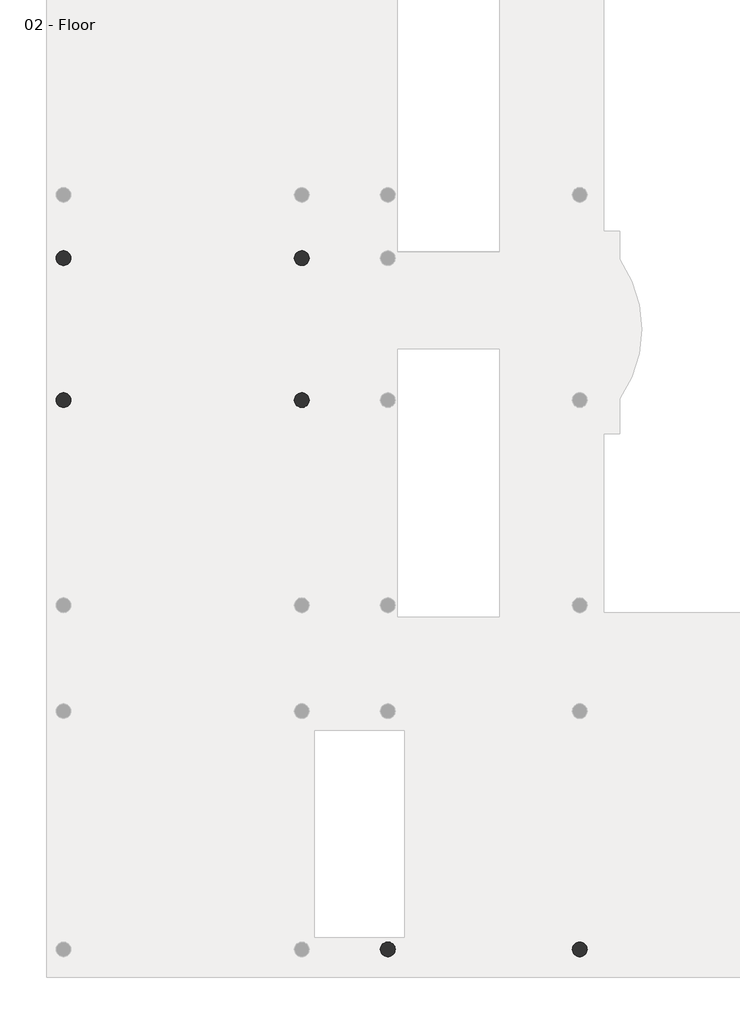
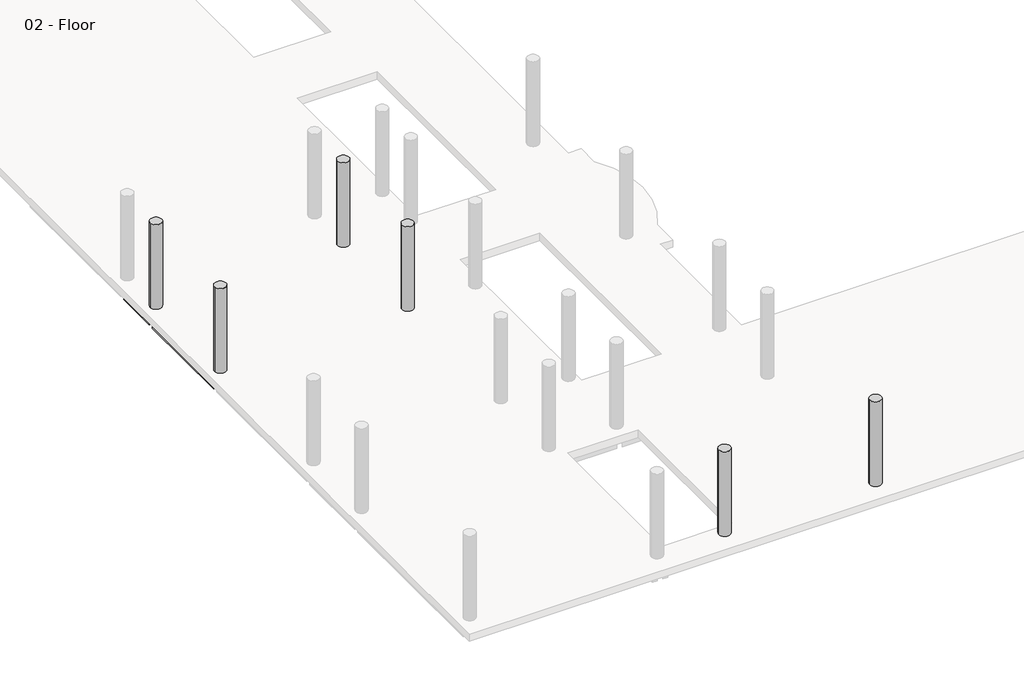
# One storey, part 2 of 9: 14 beams, 6 columns.
"""IFC4 building model written with IfcOpenShell, lengths in millimetres."""

from ifc_helpers import new_model, si_unit, point, frame, frame_2d, origin, place, context, project, spatial, polyline, circle_curve, trimmed, segment, composite_curve, outline, extrude, element, save
from ifc_brep_helpers import plane_surface, cylinder_surface, revolved_surface, advanced_brep

model = new_model("IFC4")

# Units and contexts
model_context = context("Model", 3, world=origin())
ifc_project = project(units=[si_unit("LENGTHUNIT", "METRE", prefix="MILLI")], contexts=[model_context])

# Site, building, storey
site = spatial("IfcSite", under=ifc_project)
building = spatial("IfcBuilding", under=site)
storey = spatial("IfcBuildingStorey", under=building, Name="02 - Floor", Elevation=3800.0)

# Beams
placement = place(None, origin())
element("IfcBeam", 1, ObjectType="M_Concrete-Rectangular Beam : 400 x 800mm", at=placement, inside=storey, context=model_context, shape_type="AdvancedBrep", body=[
    advanced_brep(
    [(-9401.9994416, 426.6609793, 3000.0), (-9401.9994416, -1310.2837394, 3000.0), (-9401.9994416, -1310.2837394, 3500.0), (-9401.9994416, 426.6609793, 3500.0), (-9098.921801, 329.7386199, 3000.0), (-9001.9994416, 329.7386199, 3000.0), (-9001.9994416, -1213.3613801, 3000.0), (-9001.9994416, -1310.2837394, 3000.0), (-9001.9994416, 329.7386199, 3500.0), (-9001.9994416, -1213.3613801, 3500.0), (-9001.9994416, -1310.2837394, 3500.0), (-9098.921801, 329.7386199, 3500.0)],
    [
        (0, 1),
        (1, 2),
        (2, 3),
        (3, 0),
        (0, 4, circle_curve(frame((-9201.9994416, 529.7386199, 3000.0), z_axis=(0.0, 0.0, 1.0), x_axis=(-1.0, 0.0, 0.0)), 225.0)),
        (4, 5),
        (5, 6),
        (6, 7),
        (7, 1, circle_curve(frame((-9201.9994416, -1413.3613801, 3000.0), z_axis=(0.0, 0.0, 1.0), x_axis=(-1.0, 0.0, 0.0)), 225.0)),
        (5, 8),
        (8, 9),
        (9, 10),
        (10, 7),
        (3, 11, circle_curve(frame((-9201.9994416, 529.7386199, 3500.0), z_axis=(0.0, 0.0, 1.0), x_axis=(-1.0, 0.0, 0.0)), 225.0)),
        (11, 4),
        (11, 8),
        (10, 2, circle_curve(frame((-9201.9994416, -1413.3613801, 3500.0), z_axis=(0.0, 0.0, 1.0), x_axis=(-1.0, 0.0, 0.0)), 225.0)),
    ],
    [
        plane_surface(frame((-9401.9994416, -1175.6613801, 3400.0), z_axis=(-1.0, 0.0, 0.0), x_axis=(0.0, 0.0, -1.0))),
        plane_surface(frame((-9201.9994416, -1175.6613801, 3000.0), z_axis=(0.0, 0.0, -1.0), x_axis=(1.0, 0.0, 0.0))),
        plane_surface(frame((-9001.9994416, -1175.6613801, 3400.0), z_axis=(1.0, 0.0, 0.0), x_axis=(0.0, 0.0, 1.0))),
        revolved_surface(polyline([(-9426.9994416, 529.7386199, 3500.0), (-9426.9994416, 529.7386199, 3000.0)]), (-9201.9994416, 529.7386199, 0.0), (0.0, 0.0, 1.0)),
        plane_surface(frame((-8964.2994416, 329.7386199, 3000.0), z_axis=(0.0, 1.0, 0.0), x_axis=(1.0, 0.0, 0.0))),
        revolved_surface(polyline([(-9426.9994416, -1413.3613801, 3500.0), (-9426.9994416, -1413.3613801, 3000.0)]), (-9201.9994416, -1413.3613801, 0.0), (0.0, 0.0, 1.0)),
        plane_surface(frame((24268.8999097, 30514.0407562, 3500.0), z_axis=(0.0, 0.0, 1.0), x_axis=(0.0, -1.0, 0.0))),
    ],
    [
        (0, [[1, 2, 3, 4]]),
        (1, [[5, 6, 7, 8, 9, -1]]),
        (2, [[-8, -7, 10, 11, 12, 13]]),
        (3, [[-5, -4, 14, 15]]),
        (4, [[-6, -15, 16, -10]]),
        (5, [[-9, -13, 17, -2]]),
        (6, [[-3, -17, -12, -11, -16, -14]]),
    ],
),
])
element("IfcBeam", 2, ObjectType="M_Concrete-Rectangular Beam : 400 x 800mm", at=placement, inside=storey, context=model_context, shape_type="AdvancedBrep", body=[
    advanced_brep(
    [(-9401.9994416, -1516.4390207, 3000.0), (-9401.9994416, -5666.3837394, 3000.0), (-9401.9994416, -5666.3837394, 3500.0), (-9401.9994416, -1516.4390207, 3500.0), (-9001.9994416, -5666.3837394, 3000.0), (-9098.921801, -1613.3613801, 3000.0), (-9001.9994416, -1613.3613801, 3000.0), (-9001.9994416, -5569.4613801, 3000.0), (-9001.9994416, -1613.3613801, 3500.0), (-9001.9994416, -5569.4613801, 3500.0), (-9001.9994416, -5666.3837394, 3500.0), (-9098.921801, -1613.3613801, 3500.0)],
    [
        (0, 1),
        (1, 2),
        (2, 3),
        (3, 0),
        (4, 1, circle_curve(frame((-9201.9994416, -5769.4613801, 3000.0), z_axis=(0.0, 0.0, 1.0), x_axis=(-1.0, 0.0, 0.0)), 225.0)),
        (0, 5, circle_curve(frame((-9201.9994416, -1413.3613801, 3000.0), z_axis=(0.0, 0.0, 1.0), x_axis=(-1.0, 0.0, 0.0)), 225.0)),
        (5, 6),
        (6, 7),
        (7, 4),
        (6, 8),
        (8, 9),
        (9, 10),
        (10, 4),
        (10, 2, circle_curve(frame((-9201.9994416, -5769.4613801, 3500.0), z_axis=(0.0, 0.0, 1.0), x_axis=(-1.0, 0.0, 0.0)), 225.0)),
        (5, 11),
        (11, 8),
        (3, 11, circle_curve(frame((-9201.9994416, -1413.3613801, 3500.0), z_axis=(0.0, 0.0, 1.0), x_axis=(-1.0, 0.0, 0.0)), 225.0)),
    ],
    [
        plane_surface(frame((-9401.9994416, -5531.7613801, 3400.0), z_axis=(-1.0, 0.0, 0.0), x_axis=(0.0, 0.0, -1.0))),
        plane_surface(frame((-9201.9994416, -5531.7613801, 3000.0), z_axis=(0.0, 0.0, -1.0), x_axis=(1.0, 0.0, 0.0))),
        plane_surface(frame((-9001.9994416, -5531.7613801, 3400.0), z_axis=(1.0, 0.0, 0.0), x_axis=(0.0, 0.0, 1.0))),
        revolved_surface(polyline([(-9426.9994416, -5769.4613801, 3500.0), (-9426.9994416, -5769.4613801, 3000.0)]), (-9201.9994416, -5769.4613801, 0.0), (0.0, 0.0, 1.0)),
        plane_surface(frame((-8964.2994416, -1613.3613801, 3000.0), z_axis=(0.0, 1.0, 0.0), x_axis=(1.0, 0.0, 0.0))),
        revolved_surface(polyline([(-9426.9994416, -1413.3613801, 3500.0), (-9426.9994416, -1413.3613801, 3000.0)]), (-9201.9994416, -1413.3613801, 0.0), (0.0, 0.0, 1.0)),
        plane_surface(frame((24268.8999097, 30514.0407562, 3500.0), z_axis=(0.0, 0.0, 1.0), x_axis=(0.0, -1.0, 0.0))),
    ],
    [
        (0, [[1, 2, 3, 4]]),
        (1, [[5, -1, 6, 7, 8, 9]]),
        (2, [[-9, -8, 10, 11, 12, 13]]),
        (3, [[-5, -13, 14, -2]]),
        (4, [[-7, 15, 16, -10]]),
        (5, [[-6, -4, 17, -15]]),
        (6, [[-3, -14, -12, -11, -16, -17]]),
    ],
),
])
element("IfcBeam", 3, ObjectType="M_Concrete-Rectangular Beam : 400 x 800mm", at=placement, inside=storey, context=model_context, shape_type="AdvancedBrep", body=[
    advanced_brep(
    [(554.8005584, -5569.4613801, 3000.0), (-1586.7994416, -5569.4613801, 3000.0), (-1586.7994416, -5569.4613801, 3500.0), (554.8005584, -5569.4613801, 3500.0), (554.8005584, -5666.3837394, 3000.0), (529.8005584, -5769.4613801, 3000.0), (651.7229178, -5969.4613801, 3000.0), (554.8005584, -5969.4613801, 3000.0), (-1586.7994416, -5969.4613801, 3000.0), (651.7229178, -5969.4613801, 3500.0), (554.8005584, -5969.4613801, 3500.0), (-1586.7994416, -5969.4613801, 3500.0), (554.8005584, -5666.3837394, 3500.0), (529.8005584, -5769.4613801, 3500.0)],
    [
        (0, 1),
        (1, 2),
        (2, 3),
        (3, 0),
        (0, 4),
        (4, 5, circle_curve(frame((754.8005584, -5769.4613801, 3000.0), z_axis=(0.0, 0.0, 1.0), x_axis=(-1.0, 0.0, 0.0)), 225.0)),
        (5, 6, circle_curve(frame((754.8005584, -5769.4613801, 3000.0), z_axis=(0.0, 0.0, 1.0), x_axis=(-1.0, 0.0, 0.0)), 225.0)),
        (6, 7),
        (7, 8),
        (8, 1),
        (6, 9),
        (9, 10),
        (10, 11),
        (11, 8),
        (3, 12),
        (12, 4),
        (5, 13),
        (13, 9, circle_curve(frame((754.8005584, -5769.4613801, 3500.0), z_axis=(0.0, 0.0, 1.0), x_axis=(-1.0, 0.0, 0.0)), 225.0)),
        (12, 13, circle_curve(frame((754.8005584, -5769.4613801, 3500.0), z_axis=(0.0, 0.0, 1.0), x_axis=(-1.0, 0.0, 0.0)), 225.0)),
        (11, 2),
    ],
    [
        plane_surface(frame((-1649.0994416, -5569.4613801, 3400.0), z_axis=(0.0, 1.0, 0.0), x_axis=(0.0, 0.0, -1.0))),
        plane_surface(frame((-1649.0994416, -5769.4613801, 3000.0), z_axis=(0.0, 0.0, -1.0), x_axis=(0.0, -1.0, 0.0))),
        plane_surface(frame((-1649.0994416, -5969.4613801, 3400.0), z_axis=(0.0, -1.0, 0.0), x_axis=(0.0, 0.0, 1.0))),
        plane_surface(frame((554.8005584, -5531.7613801, 3400.0), z_axis=(1.0, 0.0, 0.0), x_axis=(0.0, 0.0, -1.0))),
        revolved_surface(polyline([(529.8005584, -5769.4613801, 3500.0), (529.8005584, -5769.4613801, 3000.0)]), (754.8005584, -5769.4613801, 0.0), (0.0, 0.0, 1.0)),
        plane_surface(frame((-1586.7994416, -5531.7613801, 3350.0), z_axis=(-1.0, 0.0, 0.0), x_axis=(0.0, 0.0, 1.0))),
        plane_surface(frame((24268.8999097, 30514.0407562, 3500.0), z_axis=(0.0, 0.0, 1.0), x_axis=(0.0, -1.0, 0.0))),
    ],
    [
        (0, [[1, 2, 3, 4]]),
        (1, [[5, 6, 7, 8, 9, 10, -1]]),
        (2, [[-9, -8, 11, 12, 13, 14]]),
        (3, [[-5, -4, 15, 16]]),
        (4, [[-7, 17, 18, -11]]),
        (4, [[-6, -16, 19, -17]]),
        (5, [[-10, -14, 20, -2]]),
        (6, [[-3, -20, -13, -12, -18, -19, -15]]),
    ],
),
])
element("IfcBeam", 4, ObjectType="M_Concrete-Rectangular Beam : 400 x 800mm", at=placement, inside=storey, context=model_context, shape_type="AdvancedBrep", body=[
    advanced_brep(
    [(-2186.7994416, -5569.4613801, 3000.0), (-9001.9994416, -5569.4613801, 3000.0), (-9001.9994416, -5569.4613801, 3500.0), (-2186.7994416, -5569.4613801, 3500.0), (-9001.9994416, -5666.3837394, 3000.0), (-2186.7994416, -5969.4613801, 3000.0), (-3515.5994416, -5969.4613801, 3000.0), (-3915.5994416, -5969.4613801, 3000.0), (-5344.3994416, -5969.4613801, 3000.0), (-5744.3994416, -5969.4613801, 3000.0), (-7173.1994416, -5969.4613801, 3000.0), (-7573.1994416, -5969.4613801, 3000.0), (-9001.9994416, -5969.4613801, 3000.0), (-9098.921801, -5969.4613801, 3000.0), (-8976.9994416, -5769.4613801, 3000.0), (-2186.7994416, -5969.4613801, 3500.0), (-3515.5994416, -5969.4613801, 3500.0), (-3915.5994416, -5969.4613801, 3500.0), (-5344.3994416, -5969.4613801, 3500.0), (-5744.3994416, -5969.4613801, 3500.0), (-7173.1994416, -5969.4613801, 3500.0), (-7573.1994416, -5969.4613801, 3500.0), (-9001.9994416, -5969.4613801, 3500.0), (-9098.921801, -5969.4613801, 3500.0), (-9001.9994416, -5666.3837394, 3500.0), (-8976.9994416, -5769.4613801, 3500.0)],
    [
        (0, 1),
        (1, 2),
        (2, 3),
        (3, 0),
        (4, 1),
        (0, 5),
        (5, 6),
        (6, 7),
        (7, 8),
        (8, 9),
        (9, 10),
        (10, 11),
        (11, 12),
        (12, 13),
        (13, 14, circle_curve(frame((-9201.9994416, -5769.4613801, 3000.0), z_axis=(0.0, 0.0, 1.0), x_axis=(-1.0, 0.0, 0.0)), 225.0)),
        (14, 4, circle_curve(frame((-9201.9994416, -5769.4613801, 3000.0), z_axis=(0.0, 0.0, 1.0), x_axis=(-1.0, 0.0, 0.0)), 225.0)),
        (5, 15),
        (15, 16),
        (16, 17),
        (17, 18),
        (18, 19),
        (19, 20),
        (20, 21),
        (21, 22),
        (22, 23),
        (23, 13),
        (4, 24),
        (24, 2),
        (23, 25, circle_curve(frame((-9201.9994416, -5769.4613801, 3500.0), z_axis=(0.0, 0.0, 1.0), x_axis=(-1.0, 0.0, 0.0)), 225.0)),
        (25, 14),
        (25, 24, circle_curve(frame((-9201.9994416, -5769.4613801, 3500.0), z_axis=(0.0, 0.0, 1.0), x_axis=(-1.0, 0.0, 0.0)), 225.0)),
        (3, 15),
    ],
    [
        plane_surface(frame((-8964.2994416, -5569.4613801, 3800.0), z_axis=(0.0, 1.0, 0.0), x_axis=(1.0, 0.0, 0.0))),
        plane_surface(frame((-8964.2994416, -5569.4613801, 3000.0), z_axis=(0.0, 0.0, -1.0), x_axis=(1.0, 0.0, 0.0))),
        plane_surface(frame((-8964.2994416, -5969.4613801, 3000.0), z_axis=(0.0, -1.0, 0.0), x_axis=(1.0, 0.0, 0.0))),
        plane_surface(frame((-9001.9994416, -5531.7613801, 3400.0), z_axis=(-1.0, 0.0, 0.0), x_axis=(0.0, 0.0, 1.0))),
        revolved_surface(polyline([(-9426.9994416, -5769.4613801, 3500.0), (-9426.9994416, -5769.4613801, 3000.0)]), (-9201.9994416, -5769.4613801, 0.0), (0.0, 0.0, 1.0)),
        plane_surface(frame((-2186.7994416, -5545.5322965, 2900.0), z_axis=(1.0, 0.0, 0.0), x_axis=(0.0, -1.0, 0.0))),
        plane_surface(frame((24268.8999097, 30514.0407562, 3500.0), z_axis=(0.0, 0.0, 1.0), x_axis=(0.0, -1.0, 0.0))),
    ],
    [
        (0, [[1, 2, 3, 4]]),
        (1, [[5, -1, 6, 7, 8, 9, 10, 11, 12, 13, 14, 15, 16]]),
        (2, [[-14, -13, -12, -11, -10, -9, -8, -7, 17, 18, 19, 20, 21, 22, 23, 24, 25, 26]]),
        (3, [[-5, 27, 28, -2]]),
        (4, [[-15, -26, 29, 30]]),
        (4, [[-16, -30, 31, -27]]),
        (5, [[-6, -4, 32, -17]]),
        (6, [[-3, -28, -31, -29, -25, -24, -23, -22, -21, -20, -19, -18, -32]]),
    ],
),
])
element("IfcBeam", 5, ObjectType="M_Concrete-Rectangular Beam : 400 x 800mm", at=placement, inside=storey, context=model_context, shape_type="AdvancedBrep", body=[
    advanced_brep(
    [(554.8005584, -11868.6613801, 3000.0), (-1586.7994416, -11868.6613801, 3000.0), (-1586.7994416, -11868.6613801, 3500.0), (554.8005584, -11868.6613801, 3500.0), (554.8005584, -11965.5837394, 3000.0), (529.8005584, -12068.6613801, 3000.0), (651.7229178, -12268.6613801, 3000.0), (554.8005584, -12268.6613801, 3000.0), (-1586.7994416, -12268.6613801, 3000.0), (651.7229178, -12268.6613801, 3500.0), (554.8005584, -12268.6613801, 3500.0), (-1586.7994416, -12268.6613801, 3500.0), (554.8005584, -11965.5837394, 3500.0), (529.8005584, -12068.6613801, 3500.0)],
    [
        (0, 1),
        (1, 2),
        (2, 3),
        (3, 0),
        (0, 4),
        (4, 5, circle_curve(frame((754.8005584, -12068.6613801, 3000.0), z_axis=(0.0, 0.0, 1.0), x_axis=(-1.0, 0.0, 0.0)), 225.0)),
        (5, 6, circle_curve(frame((754.8005584, -12068.6613801, 3000.0), z_axis=(0.0, 0.0, 1.0), x_axis=(-1.0, 0.0, 0.0)), 225.0)),
        (6, 7),
        (7, 8),
        (8, 1),
        (6, 9),
        (9, 10),
        (10, 11),
        (11, 8),
        (3, 12),
        (12, 4),
        (5, 13),
        (13, 9, circle_curve(frame((754.8005584, -12068.6613801, 3500.0), z_axis=(0.0, 0.0, 1.0), x_axis=(-1.0, 0.0, 0.0)), 225.0)),
        (12, 13, circle_curve(frame((754.8005584, -12068.6613801, 3500.0), z_axis=(0.0, 0.0, 1.0), x_axis=(-1.0, 0.0, 0.0)), 225.0)),
        (11, 2),
    ],
    [
        plane_surface(frame((-1649.0994416, -11868.6613801, 3400.0), z_axis=(0.0, 1.0, 0.0), x_axis=(0.0, 0.0, -1.0))),
        plane_surface(frame((-1649.0994416, -12068.6613801, 3000.0), z_axis=(0.0, 0.0, -1.0), x_axis=(0.0, -1.0, 0.0))),
        plane_surface(frame((-1649.0994416, -12268.6613801, 3400.0), z_axis=(0.0, -1.0, 0.0), x_axis=(0.0, 0.0, 1.0))),
        plane_surface(frame((554.8005584, -11830.9613801, 3400.0), z_axis=(1.0, 0.0, 0.0), x_axis=(0.0, 0.0, -1.0))),
        revolved_surface(polyline([(529.8005584, -12068.6613801, 3500.0), (529.8005584, -12068.6613801, 3000.0)]), (754.8005584, -12068.6613801, 0.0), (0.0, 0.0, 1.0)),
        plane_surface(frame((-1586.7994416, -11830.9613801, 3350.0), z_axis=(-1.0, 0.0, 0.0), x_axis=(0.0, 0.0, 1.0))),
        plane_surface(frame((24268.8999097, 30514.0407562, 3500.0), z_axis=(0.0, 0.0, 1.0), x_axis=(0.0, -1.0, 0.0))),
    ],
    [
        (0, [[1, 2, 3, 4]]),
        (1, [[5, 6, 7, 8, 9, 10, -1]]),
        (2, [[-9, -8, 11, 12, 13, 14]]),
        (3, [[-5, -4, 15, 16]]),
        (4, [[-7, 17, 18, -11]]),
        (4, [[-6, -16, 19, -17]]),
        (5, [[-10, -14, 20, -2]]),
        (6, [[-3, -20, -13, -12, -18, -19, -15]]),
    ],
),
])
element("IfcBeam", 6, ObjectType="M_Concrete-Rectangular Beam : 400 x 800mm", at=placement, inside=storey, context=model_context, shape_type="SweptSolid", body=[
    extrude(outline(composite_curve([segment(polyline([(6447.6005584, -22435.0613801), (6447.6005584, -22531.9837394)]), True, "CONTINUOUS"), segment(trimmed(circle_curve(frame_2d((6647.6005584, -22635.0613801)), 225.0), [point((6447.6005584, -22531.9837394))], [point((6422.6005584, -22635.0613801))], True, "CARTESIAN"), True, "CONTINUOUS"), segment(trimmed(circle_curve(frame_2d((6647.6005584, -22635.0613801)), 225.0), [point((6422.6005584, -22635.0613801))], [point((6544.5229178, -22835.0613801))], True, "CARTESIAN"), True, "CONTINUOUS"), segment(polyline([(6544.5229178, -22835.0613801), (857.878199, -22835.0613801)]), True, "CONTINUOUS"), segment(trimmed(circle_curve(frame_2d((754.8005584, -22635.0613801)), 225.0), [point((857.878199, -22835.0613801))], [point((979.8005584, -22635.0613801))], True, "CARTESIAN"), True, "CONTINUOUS"), segment(trimmed(circle_curve(frame_2d((754.8005584, -22635.0613801)), 225.0), [point((979.8005584, -22635.0613801))], [point((857.878199, -22435.0613801))], True, "CARTESIAN"), True, "CONTINUOUS"), segment(polyline([(857.878199, -22435.0613801), (6447.6005584, -22435.0613801)]), True, "CONTINUOUS")], self_intersect=False)), frame((0.0, 0.0, 3000.0), z_axis=(0.0, 0.0, 1.0), x_axis=(1.0, 0.0, 0.0)), (0.0, 0.0, 1.0), 500.0),
    extrude(outline(composite_curve([segment(polyline([(-1586.7994416, -22835.0613801), (-1586.7994416, -22435.0613801), (651.7229178, -22435.0613801)]), True, "CONTINUOUS"), segment(trimmed(circle_curve(frame_2d((754.8005584, -22635.0613801)), 225.0), [point((651.7229178, -22435.0613801))], [point((529.8005584, -22635.0613801))], True, "CARTESIAN"), True, "CONTINUOUS"), segment(trimmed(circle_curve(frame_2d((754.8005584, -22635.0613801)), 225.0), [point((529.8005584, -22635.0613801))], [point((651.7229178, -22835.0613801))], True, "CARTESIAN"), True, "CONTINUOUS"), segment(polyline([(651.7229178, -22835.0613801), (-1586.7994416, -22835.0613801)]), True, "CONTINUOUS")], self_intersect=False)), frame((0.0, 0.0, 3000.0), z_axis=(0.0, 0.0, 1.0), x_axis=(1.0, 0.0, 0.0)), (0.0, 0.0, 1.0), 500.0),
])
element("IfcBeam", 7, ObjectType="M_Concrete-Rectangular Beam : 400 x 800mm", at=placement, inside=storey, context=model_context, shape_type="SweptSolid", body=[
    extrude(outline(composite_curve([segment(trimmed(circle_curve(frame_2d((754.8005584, -1413.3613801)), 225.0), [point((529.8005584, -1413.3613801))], [point((554.8005584, -1516.4390207))], True, "CARTESIAN"), True, "CONTINUOUS"), segment(polyline([(554.8005584, -1516.4390207), (554.8005584, -1613.3613801), (-1586.7994416, -1613.3613801), (-1586.7994416, -1213.3613801), (554.8005584, -1213.3613801), (554.8005584, -1310.2837394)]), True, "CONTINUOUS"), segment(trimmed(circle_curve(frame_2d((754.8005584, -1413.3613801)), 225.0), [point((554.8005584, -1310.2837394))], [point((529.8005584, -1413.3613801))], True, "CARTESIAN"), True, "CONTINUOUS")], self_intersect=False)), frame((0.0, 0.0, 3000.0), z_axis=(0.0, 0.0, 1.0), x_axis=(1.0, 0.0, 0.0)), (0.0, 0.0, 1.0), 500.0),
])
element("IfcBeam", 8, ObjectType="M_Concrete-Rectangular Beam : 400 x 800mm", at=placement, inside=storey, context=model_context, shape_type="AdvancedBrep", body=[
    advanced_brep(
    [(-2186.7994416, -1213.3613801, 3000.0), (-9001.9994416, -1213.3613801, 3000.0), (-9001.9994416, -1213.3613801, 3500.0), (-2186.7994416, -1213.3613801, 3500.0), (-9098.921801, -1613.3613801, 3000.0), (-8976.9994416, -1413.3613801, 3000.0), (-9001.9994416, -1310.2837394, 3000.0), (-2186.7994416, -1613.3613801, 3000.0), (-9001.9994416, -1613.3613801, 3000.0), (-2186.7994416, -1613.3613801, 3500.0), (-9001.9994416, -1613.3613801, 3500.0), (-9098.921801, -1613.3613801, 3500.0), (-8976.9994416, -1413.3613801, 3500.0), (-9001.9994416, -1310.2837394, 3500.0)],
    [
        (0, 1),
        (1, 2),
        (2, 3),
        (3, 0),
        (4, 5, circle_curve(frame((-9201.9994416, -1413.3613801, 3000.0), z_axis=(0.0, 0.0, 1.0), x_axis=(-1.0, 0.0, 0.0)), 225.0)),
        (5, 6, circle_curve(frame((-9201.9994416, -1413.3613801, 3000.0), z_axis=(0.0, 0.0, 1.0), x_axis=(-1.0, 0.0, 0.0)), 225.0)),
        (6, 1),
        (0, 7),
        (7, 8),
        (8, 4),
        (7, 9),
        (9, 10),
        (10, 11),
        (11, 4),
        (11, 12, circle_curve(frame((-9201.9994416, -1413.3613801, 3500.0), z_axis=(0.0, 0.0, 1.0), x_axis=(-1.0, 0.0, 0.0)), 225.0)),
        (12, 5),
        (12, 13, circle_curve(frame((-9201.9994416, -1413.3613801, 3500.0), z_axis=(0.0, 0.0, 1.0), x_axis=(-1.0, 0.0, 0.0)), 225.0)),
        (13, 6),
        (13, 2),
        (3, 9),
    ],
    [
        plane_surface(frame((-8964.2994416, -1213.3613801, 3800.0), z_axis=(0.0, 1.0, 0.0), x_axis=(1.0, 0.0, 0.0))),
        plane_surface(frame((-8964.2994416, -1213.3613801, 3000.0), z_axis=(0.0, 0.0, -1.0), x_axis=(1.0, 0.0, 0.0))),
        plane_surface(frame((-8964.2994416, -1613.3613801, 3000.0), z_axis=(0.0, -1.0, 0.0), x_axis=(1.0, 0.0, 0.0))),
        revolved_surface(polyline([(-9426.9994416, -1413.3613801, 3500.0), (-9426.9994416, -1413.3613801, 3000.0)]), (-9201.9994416, -1413.3613801, 0.0), (0.0, 0.0, 1.0)),
        plane_surface(frame((-9001.9994416, -1175.6613801, 3400.0), z_axis=(-1.0, 0.0, 0.0), x_axis=(0.0, 0.0, 1.0))),
        plane_surface(frame((-2186.7994416, -5531.7613801, 3350.0), z_axis=(1.0, 0.0, 0.0), x_axis=(0.0, 0.0, -1.0))),
        plane_surface(frame((24268.8999097, 30514.0407562, 3500.0), z_axis=(0.0, 0.0, 1.0), x_axis=(0.0, -1.0, 0.0))),
    ],
    [
        (0, [[1, 2, 3, 4]]),
        (1, [[5, 6, 7, -1, 8, 9, 10]]),
        (2, [[-10, -9, 11, 12, 13, 14]]),
        (3, [[-5, -14, 15, 16]]),
        (3, [[-6, -16, 17, 18]]),
        (4, [[-7, -18, 19, -2]]),
        (5, [[-8, -4, 20, -11]]),
        (6, [[-3, -19, -17, -15, -13, -12, -20]]),
    ],
),
])
element("IfcBeam", 9, ObjectType="M_Concrete-Rectangular Beam : 400 x 800mm", at=placement, inside=storey, context=model_context, shape_type="SweptSolid", body=[
    extrude(outline(polyline([(-3915.5994416, -5969.4613801), (-3515.5994416, -5969.4613801), (-3515.5994416, -15119.8613801), (-3915.5994416, -15119.8613801), (-3915.5994416, -5969.4613801)])), frame((0.0, 0.0, 3000.0), z_axis=(0.0, 0.0, 1.0), x_axis=(1.0, 0.0, 0.0)), (0.0, 0.0, 1.0), 500.0),
])
element("IfcBeam", 10, ObjectType="M_Concrete-Rectangular Beam : 400 x 800mm", at=placement, inside=storey, context=model_context, shape_type="SweptSolid", body=[
    extrude(outline(polyline([(-5744.3994416, -5969.4613801), (-5344.3994416, -5969.4613801), (-5344.3994416, -15119.8613801), (-5744.3994416, -15119.8613801), (-5744.3994416, -5969.4613801)])), frame((0.0, 0.0, 3000.0), z_axis=(0.0, 0.0, 1.0), x_axis=(1.0, 0.0, 0.0)), (0.0, 0.0, 1.0), 500.0),
])
element("IfcBeam", 11, ObjectType="M_Concrete-Rectangular Beam : 400 x 800mm", at=placement, inside=storey, context=model_context, shape_type="SweptSolid", body=[
    extrude(outline(polyline([(-7573.1994416, -5969.4613801), (-7173.1994416, -5969.4613801), (-7173.1994416, -15119.8613801), (-7573.1994416, -15119.8613801), (-7573.1994416, -5969.4613801)])), frame((0.0, 0.0, 3000.0), z_axis=(0.0, 0.0, 1.0), x_axis=(1.0, 0.0, 0.0)), (0.0, 0.0, 1.0), 500.0),
])
element("IfcBeam", 12, ObjectType="M_Concrete-Rectangular Beam : 600 x 900", at=placement, inside=storey, context=model_context, shape_type="AdvancedBrep", body=[
    advanced_brep(
    [(-2186.7994416, 329.7386199, 2900.0), (-2186.7994416, -1613.3613801, 2900.0), (-2186.7994416, -1613.3613801, 3000.0), (-2186.7994416, -1613.3613801, 3500.0), (-2186.7994416, -1213.3613801, 3500.0), (-2186.7994416, 329.7386199, 3500.0), (-1989.8770822, 329.7386199, 2900.0), (-1783.721801, 329.7386199, 2900.0), (-1586.7994416, 329.7386199, 2900.0), (-1586.7994416, -1613.3613801, 2900.0), (-1783.721801, -1613.3613801, 2900.0), (-1661.7994416, -1413.3613801, 2900.0), (-2111.7994416, -1413.3613801, 2900.0), (-1989.8770822, -1613.3613801, 2900.0), (-1586.7994416, 329.7386199, 3500.0), (-1586.7994416, -1213.3613801, 3500.0), (-1586.7994416, -1613.3613801, 3500.0), (-1586.7994416, -1613.3613801, 3000.0), (-1783.721801, -1613.3613801, 3500.0), (-1783.721801, 329.7386199, 3500.0), (-1989.8770822, 329.7386199, 3500.0), (-2111.7994416, -1413.3613801, 3500.0), (-1989.8770822, -1613.3613801, 3500.0), (-1661.7994416, -1413.3613801, 3500.0)],
    [
        (0, 1),
        (1, 2),
        (2, 3),
        (3, 4),
        (4, 5),
        (5, 0),
        (0, 6),
        (6, 7, circle_curve(frame((-1886.7994416, 529.7386199, 2900.0), z_axis=(0.0, 0.0, 1.0), x_axis=(-1.0, 0.0, 0.0)), 225.0)),
        (7, 8),
        (8, 9),
        (9, 10),
        (10, 11, circle_curve(frame((-1886.7994416, -1413.3613801, 2900.0), z_axis=(0.0, 0.0, 1.0), x_axis=(-1.0, 0.0, 0.0)), 225.0)),
        (11, 12, circle_curve(frame((-1886.7994416, -1413.3613801, 2900.0), z_axis=(0.0, 0.0, 1.0), x_axis=(-1.0, 0.0, 0.0)), 225.0)),
        (12, 13, circle_curve(frame((-1886.7994416, -1413.3613801, 2900.0), z_axis=(0.0, 0.0, 1.0), x_axis=(-1.0, 0.0, 0.0)), 225.0)),
        (13, 1),
        (8, 14),
        (14, 15),
        (15, 16),
        (16, 17),
        (17, 9),
        (16, 18),
        (18, 10),
        (7, 19),
        (19, 14),
        (6, 20),
        (20, 19, circle_curve(frame((-1886.7994416, 529.7386199, 3500.0), z_axis=(0.0, 0.0, 1.0), x_axis=(-1.0, 0.0, 0.0)), 225.0)),
        (5, 20),
        (12, 21),
        (21, 22, circle_curve(frame((-1886.7994416, -1413.3613801, 3500.0), z_axis=(0.0, 0.0, 1.0), x_axis=(-1.0, 0.0, 0.0)), 225.0)),
        (22, 13),
        (11, 23),
        (23, 21, circle_curve(frame((-1886.7994416, -1413.3613801, 3500.0), z_axis=(0.0, 0.0, 1.0), x_axis=(-1.0, 0.0, 0.0)), 225.0)),
        (22, 3),
        (18, 23, circle_curve(frame((-1886.7994416, -1413.3613801, 3500.0), z_axis=(0.0, 0.0, 1.0), x_axis=(-1.0, 0.0, 0.0)), 225.0)),
    ],
    [
        plane_surface(frame((-2186.7994416, -1175.6613801, 3350.0), z_axis=(-1.0, 0.0, 0.0), x_axis=(0.0, 0.0, -1.0))),
        plane_surface(frame((-1886.7994416, -1175.6613801, 2900.0), z_axis=(0.0, 0.0, -1.0), x_axis=(1.0, 0.0, 0.0))),
        plane_surface(frame((-1586.7994416, -1175.6613801, 3350.0), z_axis=(1.0, 0.0, 0.0), x_axis=(0.0, 0.0, 1.0))),
        plane_surface(frame((-1562.8703581, -1613.3613801, 3800.0), z_axis=(0.0, -1.0, 0.0), x_axis=(-1.0, 0.0, 0.0))),
        plane_surface(frame((-1649.0994416, 329.7386199, 3400.0), z_axis=(0.0, 1.0, 0.0), x_axis=(0.0, 0.0, 1.0))),
        revolved_surface(polyline([(-2111.7994416, 529.7386199, 3500.0), (-2111.7994416, 529.7386199, 2900.0)]), (-1886.7994416, 529.7386199, 0.0), (0.0, 0.0, 1.0)),
        revolved_surface(polyline([(-2111.7994416, -1413.3613801, 3500.0), (-2111.7994416, -1413.3613801, 2900.0)]), (-1886.7994416, -1413.3613801, 0.0), (0.0, 0.0, 1.0)),
        plane_surface(frame((24268.8999097, 30514.0407562, 3500.0), z_axis=(0.0, 0.0, 1.0), x_axis=(0.0, -1.0, 0.0))),
    ],
    [
        (0, [[1, 2, 3, 4, 5, 6]]),
        (1, [[-1, 7, 8, 9, 10, 11, 12, 13, 14, 15]]),
        (2, [[-10, 16, 17, 18, 19, 20]]),
        (3, [[-11, -20, -19, 21, 22]]),
        (4, [[-9, 23, 24, -16]]),
        (5, [[-8, 25, 26, -23]]),
        (4, [[-7, -6, 27, -25]]),
        (6, [[-14, 28, 29, 30]]),
        (6, [[-13, 31, 32, -28]]),
        (3, [[-15, -30, 33, -3, -2]]),
        (6, [[-12, -22, 34, -31]]),
        (7, [[-5, -4, -33, -29, -32, -34, -21, -18, -17, -24, -26, -27]]),
    ],
),
])
element("IfcBeam", 13, ObjectType="M_Concrete-Rectangular Beam : 600 x 900", at=placement, inside=storey, context=model_context, shape_type="AdvancedBrep", body=[
    advanced_brep(
    [(-2186.7994416, -1613.3613801, 2900.0), (-2186.7994416, -5969.4613801, 2900.0), (-2186.7994416, -5969.4613801, 3000.0), (-2186.7994416, -5969.4613801, 3500.0), (-2186.7994416, -5569.4613801, 3500.0), (-2186.7994416, -1613.3613801, 3500.0), (-1989.8770822, -5969.4613801, 2900.0), (-1989.8770822, -1613.3613801, 2900.0), (-1783.721801, -1613.3613801, 2900.0), (-1586.7994416, -1613.3613801, 2900.0), (-1586.7994416, -5969.4613801, 2900.0), (-1783.721801, -5969.4613801, 2900.0), (-1661.7994416, -5769.4613801, 2900.0), (-2111.7994416, -5769.4613801, 2900.0), (-1586.7994416, -1613.3613801, 3500.0), (-1586.7994416, -5569.4613801, 3500.0), (-1586.7994416, -5969.4613801, 3500.0), (-1586.7994416, -5969.4613801, 3000.0), (-1783.721801, -5969.4613801, 3500.0), (-2111.7994416, -5769.4613801, 3500.0), (-1989.8770822, -5969.4613801, 3500.0), (-1661.7994416, -5769.4613801, 3500.0), (-1989.8770822, -1613.3613801, 3500.0), (-1783.721801, -1613.3613801, 3500.0)],
    [
        (0, 1),
        (1, 2),
        (2, 3),
        (3, 4),
        (4, 5),
        (5, 0),
        (6, 1),
        (0, 7),
        (7, 8, circle_curve(frame((-1886.7994416, -1413.3613801, 2900.0), z_axis=(0.0, 0.0, 1.0), x_axis=(-1.0, 0.0, 0.0)), 225.0)),
        (8, 9),
        (9, 10),
        (10, 11),
        (11, 12, circle_curve(frame((-1886.7994416, -5769.4613801, 2900.0), z_axis=(0.0, 0.0, 1.0), x_axis=(-1.0, 0.0, 0.0)), 225.0)),
        (12, 13, circle_curve(frame((-1886.7994416, -5769.4613801, 2900.0), z_axis=(0.0, 0.0, 1.0), x_axis=(-1.0, 0.0, 0.0)), 225.0)),
        (13, 6, circle_curve(frame((-1886.7994416, -5769.4613801, 2900.0), z_axis=(0.0, 0.0, 1.0), x_axis=(-1.0, 0.0, 0.0)), 225.0)),
        (9, 14),
        (14, 15),
        (15, 16),
        (16, 17),
        (17, 10),
        (16, 18),
        (18, 11),
        (13, 19),
        (19, 20, circle_curve(frame((-1886.7994416, -5769.4613801, 3500.0), z_axis=(0.0, 0.0, 1.0), x_axis=(-1.0, 0.0, 0.0)), 225.0)),
        (20, 6),
        (12, 21),
        (21, 19, circle_curve(frame((-1886.7994416, -5769.4613801, 3500.0), z_axis=(0.0, 0.0, 1.0), x_axis=(-1.0, 0.0, 0.0)), 225.0)),
        (20, 3),
        (18, 21, circle_curve(frame((-1886.7994416, -5769.4613801, 3500.0), z_axis=(0.0, 0.0, 1.0), x_axis=(-1.0, 0.0, 0.0)), 225.0)),
        (7, 22),
        (22, 23, circle_curve(frame((-1886.7994416, -1413.3613801, 3500.0), z_axis=(0.0, 0.0, 1.0), x_axis=(-1.0, 0.0, 0.0)), 225.0)),
        (23, 8),
        (23, 14),
        (5, 22),
    ],
    [
        plane_surface(frame((-2186.7994416, -5531.7613801, 3350.0), z_axis=(-1.0, 0.0, 0.0), x_axis=(0.0, 0.0, -1.0))),
        plane_surface(frame((-1886.7994416, -5531.7613801, 2900.0), z_axis=(0.0, 0.0, -1.0), x_axis=(1.0, 0.0, 0.0))),
        plane_surface(frame((-1586.7994416, -5531.7613801, 3350.0), z_axis=(1.0, 0.0, 0.0), x_axis=(0.0, 0.0, 1.0))),
        plane_surface(frame((-1562.8703581, -5969.4613801, 3800.0), z_axis=(0.0, -1.0, 0.0), x_axis=(-1.0, 0.0, 0.0))),
        revolved_surface(polyline([(-2111.7994416, -5769.4613801, 3500.0), (-2111.7994416, -5769.4613801, 2900.0)]), (-1886.7994416, -5769.4613801, 0.0), (0.0, 0.0, 1.0)),
        revolved_surface(polyline([(-2111.7994416, -1413.3613801, 3500.0), (-2111.7994416, -1413.3613801, 2900.0)]), (-1886.7994416, -1413.3613801, 0.0), (0.0, 0.0, 1.0)),
        plane_surface(frame((-1649.0994416, -1613.3613801, 3400.0), z_axis=(0.0, 1.0, 0.0), x_axis=(0.0, 0.0, 1.0))),
        plane_surface(frame((24268.8999097, 30514.0407562, 3500.0), z_axis=(0.0, 0.0, 1.0), x_axis=(0.0, -1.0, 0.0))),
    ],
    [
        (0, [[1, 2, 3, 4, 5, 6]]),
        (1, [[7, -1, 8, 9, 10, 11, 12, 13, 14, 15]]),
        (2, [[-11, 16, 17, 18, 19, 20]]),
        (3, [[-12, -20, -19, 21, 22]]),
        (4, [[-15, 23, 24, 25]]),
        (4, [[-14, 26, 27, -23]]),
        (3, [[-7, -25, 28, -3, -2]]),
        (4, [[-13, -22, 29, -26]]),
        (5, [[-9, 30, 31, 32]]),
        (6, [[-10, -32, 33, -16]]),
        (6, [[-8, -6, 34, -30]]),
        (7, [[-5, -4, -28, -24, -27, -29, -21, -18, -17, -33, -31, -34]]),
    ],
),
])
element("IfcBeam", 14, ObjectType="M_Concrete-Rectangular Beam : 600 x 900", at=placement, inside=storey, context=model_context, shape_type="AdvancedBrep", body=[
    advanced_brep(
    [(-2186.7994416, -5969.4613801, 2900.0), (-2186.7994416, -12268.6613801, 2900.0), (-2186.7994416, -12268.6613801, 3500.0), (-2186.7994416, -5969.4613801, 3500.0), (-1989.8770822, -12268.6613801, 2900.0), (-1989.8770822, -5969.4613801, 2900.0), (-1783.721801, -5969.4613801, 2900.0), (-1586.7994416, -5969.4613801, 2900.0), (-1586.7994416, -12268.6613801, 2900.0), (-1783.721801, -12268.6613801, 2900.0), (-1661.7994416, -12068.6613801, 2900.0), (-2111.7994416, -12068.6613801, 2900.0), (-1586.7994416, -5969.4613801, 3500.0), (-1586.7994416, -11868.6613801, 3500.0), (-1586.7994416, -12268.6613801, 3500.0), (-1586.7994416, -12268.6613801, 3000.0), (-1783.721801, -12268.6613801, 3500.0), (-1989.8770822, -5969.4613801, 3500.0), (-1783.721801, -5969.4613801, 3500.0), (-2111.7994416, -12068.6613801, 3500.0), (-1989.8770822, -12268.6613801, 3500.0), (-1661.7994416, -12068.6613801, 3500.0)],
    [
        (0, 1),
        (1, 2),
        (2, 3),
        (3, 0),
        (4, 1),
        (0, 5),
        (5, 6, circle_curve(frame((-1886.7994416, -5769.4613801, 2900.0), z_axis=(0.0, 0.0, 1.0), x_axis=(-1.0, 0.0, 0.0)), 225.0)),
        (6, 7),
        (7, 8),
        (8, 9),
        (9, 10, circle_curve(frame((-1886.7994416, -12068.6613801, 2900.0), z_axis=(0.0, 0.0, 1.0), x_axis=(-1.0, 0.0, 0.0)), 225.0)),
        (10, 11, circle_curve(frame((-1886.7994416, -12068.6613801, 2900.0), z_axis=(0.0, 0.0, 1.0), x_axis=(-1.0, 0.0, 0.0)), 225.0)),
        (11, 4, circle_curve(frame((-1886.7994416, -12068.6613801, 2900.0), z_axis=(0.0, 0.0, 1.0), x_axis=(-1.0, 0.0, 0.0)), 225.0)),
        (7, 12),
        (12, 13),
        (13, 14),
        (14, 15),
        (15, 8),
        (14, 16),
        (16, 9),
        (5, 17),
        (17, 18, circle_curve(frame((-1886.7994416, -5769.4613801, 3500.0), z_axis=(0.0, 0.0, 1.0), x_axis=(-1.0, 0.0, 0.0)), 225.0)),
        (18, 6),
        (18, 12),
        (11, 19),
        (19, 20, circle_curve(frame((-1886.7994416, -12068.6613801, 3500.0), z_axis=(0.0, 0.0, 1.0), x_axis=(-1.0, 0.0, 0.0)), 225.0)),
        (20, 4),
        (10, 21),
        (21, 19, circle_curve(frame((-1886.7994416, -12068.6613801, 3500.0), z_axis=(0.0, 0.0, 1.0), x_axis=(-1.0, 0.0, 0.0)), 225.0)),
        (20, 2),
        (16, 21, circle_curve(frame((-1886.7994416, -12068.6613801, 3500.0), z_axis=(0.0, 0.0, 1.0), x_axis=(-1.0, 0.0, 0.0)), 225.0)),
        (3, 17),
    ],
    [
        plane_surface(frame((-2186.7994416, -11830.9613801, 3350.0), z_axis=(-1.0, 0.0, 0.0), x_axis=(0.0, 0.0, -1.0))),
        plane_surface(frame((-1886.7994416, -11830.9613801, 2900.0), z_axis=(0.0, 0.0, -1.0), x_axis=(1.0, 0.0, 0.0))),
        plane_surface(frame((-1586.7994416, -11830.9613801, 3350.0), z_axis=(1.0, 0.0, 0.0), x_axis=(0.0, 0.0, 1.0))),
        plane_surface(frame((-1562.8703581, -12268.6613801, 3800.0), z_axis=(0.0, -1.0, 0.0), x_axis=(-1.0, 0.0, 0.0))),
        revolved_surface(polyline([(-2111.7994416, -5769.4613801, 3500.0), (-2111.7994416, -5769.4613801, 2900.0)]), (-1886.7994416, -5769.4613801, 0.0), (0.0, 0.0, 1.0)),
        plane_surface(frame((-1649.0994416, -5969.4613801, 3400.0), z_axis=(0.0, 1.0, 0.0), x_axis=(0.0, 0.0, 1.0))),
        revolved_surface(polyline([(-2111.7994416, -12068.6613801, 3500.0), (-2111.7994416, -12068.6613801, 2900.0)]), (-1886.7994416, -12068.6613801, 0.0), (0.0, 0.0, 1.0)),
        plane_surface(frame((24268.8999097, 30514.0407562, 3500.0), z_axis=(0.0, 0.0, 1.0), x_axis=(0.0, -1.0, 0.0))),
    ],
    [
        (0, [[1, 2, 3, 4]]),
        (1, [[5, -1, 6, 7, 8, 9, 10, 11, 12, 13]]),
        (2, [[-9, 14, 15, 16, 17, 18]]),
        (3, [[-10, -18, -17, 19, 20]]),
        (4, [[-7, 21, 22, 23]]),
        (5, [[-8, -23, 24, -14]]),
        (6, [[-13, 25, 26, 27]]),
        (6, [[-12, 28, 29, -25]]),
        (3, [[-5, -27, 30, -2]]),
        (6, [[-11, -20, 31, -28]]),
        (5, [[-6, -4, 32, -21]]),
        (7, [[-3, -30, -26, -29, -31, -19, -16, -15, -24, -22, -32]]),
    ],
),
])

# Columns
element("IfcColumn", 15, ObjectType="M_Concrete-Round-Column : 450mm", at=placement, inside=storey, context=model_context, shape_type="SweptSolid", body=[
    extrude(outline(composite_curve([segment(trimmed(circle_curve(frame_2d((-9201.9994416, -5769.4613801)), 225.0), [point((-8976.9994416, -5769.4613801))], [point((-9426.9994416, -5769.4613801))], False, "CARTESIAN"), True, "CONTINUOUS"), segment(trimmed(circle_curve(frame_2d((-9201.9994416, -5769.4613801)), 225.0), [point((-9426.9994416, -5769.4613801))], [point((-8976.9994416, -5769.4613801))], False, "CARTESIAN"), True, "CONTINUOUS")], self_intersect=False)), frame((0.0, 0.0, 3800.0), z_axis=(0.0, 0.0, 1.0), x_axis=(1.0, 0.0, 0.0)), (0.0, 0.0, 1.0), 3500.0),
])
element("IfcColumn", 16, ObjectType="M_Concrete-Round-Column : 450mm", at=placement, inside=storey, context=model_context, shape_type="SweptSolid", body=[
    extrude(outline(composite_curve([segment(trimmed(circle_curve(frame_2d((-9201.9994416, -1413.3613801)), 225.0), [point((-8976.9994416, -1413.3613801))], [point((-9426.9994416, -1413.3613801))], False, "CARTESIAN"), True, "CONTINUOUS"), segment(trimmed(circle_curve(frame_2d((-9201.9994416, -1413.3613801)), 225.0), [point((-9426.9994416, -1413.3613801))], [point((-8976.9994416, -1413.3613801))], False, "CARTESIAN"), True, "CONTINUOUS")], self_intersect=False)), frame((0.0, 0.0, 3800.0), z_axis=(0.0, 0.0, 1.0), x_axis=(1.0, 0.0, 0.0)), (0.0, 0.0, 1.0), 3500.0),
])
element("IfcColumn", 17, ObjectType="M_Concrete-Round-Column : 450mm", at=placement, inside=storey, context=model_context, shape_type="SweptSolid", body=[
    extrude(outline(composite_curve([segment(trimmed(circle_curve(frame_2d((6647.6005584, -22635.0613801)), 225.0), [point((6872.6005584, -22635.0613801))], [point((6422.6005584, -22635.0613801))], False, "CARTESIAN"), True, "CONTINUOUS"), segment(trimmed(circle_curve(frame_2d((6647.6005584, -22635.0613801)), 225.0), [point((6422.6005584, -22635.0613801))], [point((6872.6005584, -22635.0613801))], False, "CARTESIAN"), True, "CONTINUOUS")], self_intersect=False)), frame((0.0, 0.0, 3800.0), z_axis=(0.0, 0.0, 1.0), x_axis=(1.0, 0.0, 0.0)), (0.0, 0.0, 1.0), 3500.0),
])
element("IfcColumn", 18, ObjectType="M_Concrete-Round-Column : 450mm", at=placement, inside=storey, context=model_context, shape_type="SweptSolid", body=[
    extrude(outline(composite_curve([segment(trimmed(circle_curve(frame_2d((-1886.7994416, -5769.4613801)), 225.0), [point((-1661.7994416, -5769.4613801))], [point((-2111.7994416, -5769.4613801))], False, "CARTESIAN"), True, "CONTINUOUS"), segment(trimmed(circle_curve(frame_2d((-1886.7994416, -5769.4613801)), 225.0), [point((-2111.7994416, -5769.4613801))], [point((-1661.7994416, -5769.4613801))], False, "CARTESIAN"), True, "CONTINUOUS")], self_intersect=False)), frame((0.0, 0.0, 3800.0), z_axis=(0.0, 0.0, 1.0), x_axis=(1.0, 0.0, 0.0)), (0.0, 0.0, 1.0), 3500.0),
])
element("IfcColumn", 19, ObjectType="M_Concrete-Round-Column : 450mm", at=placement, inside=storey, context=model_context, shape_type="SweptSolid", body=[
    extrude(outline(composite_curve([segment(trimmed(circle_curve(frame_2d((-1886.7994416, -1413.3613801)), 225.0), [point((-1661.7994416, -1413.3613801))], [point((-2111.7994416, -1413.3613801))], False, "CARTESIAN"), True, "CONTINUOUS"), segment(trimmed(circle_curve(frame_2d((-1886.7994416, -1413.3613801)), 225.0), [point((-2111.7994416, -1413.3613801))], [point((-1661.7994416, -1413.3613801))], False, "CARTESIAN"), True, "CONTINUOUS")], self_intersect=False)), frame((0.0, 0.0, 3800.0), z_axis=(0.0, 0.0, 1.0), x_axis=(1.0, 0.0, 0.0)), (0.0, 0.0, 1.0), 3500.0),
])
element("IfcColumn", 20, ObjectType="M_Concrete-Round-Column : 450mm", at=placement, inside=storey, context=model_context, shape_type="AdvancedBrep", body=[
    advanced_brep(
    [(529.8005584, -22635.0613801, 3800.0), (979.8005584, -22635.0613801, 3800.0), (529.8005584, -22635.0613801, 7300.0), (651.7257264, -22435.0599326, 7300.0), (857.878199, -22435.0613801, 7300.0), (979.8005584, -22635.0613801, 7300.0), (857.878199, -22835.0613801, 7300.0), (651.7257264, -22835.0628276, 7300.0)],
    [
        (0, 1, circle_curve(frame((754.8005584, -22635.0613801, 3800.0), z_axis=(0.0, 0.0, -1.0), x_axis=(1.0, 0.0, 0.0)), 225.0)),
        (1, 0, circle_curve(frame((754.8005584, -22635.0613801, 3800.0), z_axis=(0.0, 0.0, -1.0), x_axis=(1.0, 0.0, 0.0)), 225.0)),
        (0, 2),
        (2, 3, circle_curve(frame((754.8005584, -22635.0613801, 7300.0), z_axis=(0.0, 0.0, -1.0), x_axis=(1.0, 0.0, 0.0)), 225.0)),
        (3, 4, circle_curve(frame((754.8005584, -22635.0613801, 7300.0), z_axis=(0.0, 0.0, -1.0), x_axis=(1.0, 0.0, 0.0)), 225.0)),
        (4, 5, circle_curve(frame((754.8005584, -22635.0613801, 7300.0), z_axis=(0.0, 0.0, -1.0), x_axis=(1.0, 0.0, 0.0)), 225.0)),
        (5, 1),
        (5, 6, circle_curve(frame((754.8005584, -22635.0613801, 7300.0), z_axis=(0.0, 0.0, -1.0), x_axis=(1.0, 0.0, 0.0)), 225.0)),
        (6, 7, circle_curve(frame((754.8005584, -22635.0613801, 7300.0), z_axis=(0.0, 0.0, -1.0), x_axis=(1.0, 0.0, 0.0)), 225.0)),
        (7, 2, circle_curve(frame((754.8005584, -22635.0613801, 7300.0), z_axis=(0.0, 0.0, -1.0), x_axis=(1.0, 0.0, 0.0)), 225.0)),
    ],
    [
        plane_surface(frame((979.8005584, -22635.0613801, 3800.0), z_axis=(0.0, 0.0, -1.0), x_axis=(0.0, -1.0, 0.0))),
        cylinder_surface(frame((754.8005584, -22635.0613801, 3800.0), z_axis=(0.0, 0.0, 1.0), x_axis=(1.0, 0.0, 0.0)), 225.0),
        plane_surface(frame((24268.8999097, 30514.0407562, 7300.0), z_axis=(0.0, 0.0, 1.0), x_axis=(0.0, -1.0, 0.0))),
    ],
    [
        (0, [[1, 2]]),
        (1, [[-1, 3, 4, 5, 6, 7]]),
        (1, [[-2, -7, 8, 9, 10, -3]]),
        (2, [[-6, -5, -4, -10, -9, -8]]),
    ],
),
])

save(model, "model.ifc")
